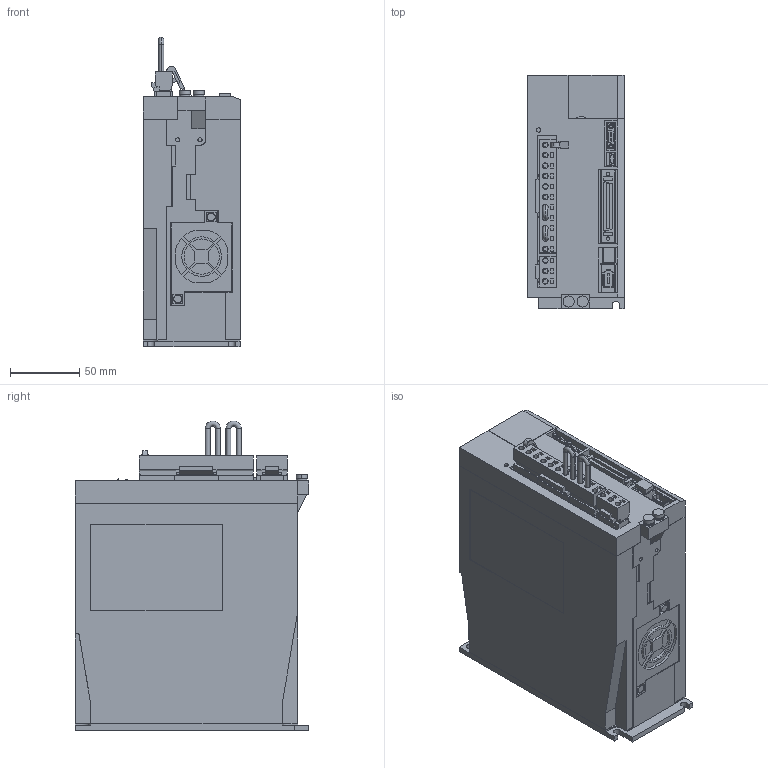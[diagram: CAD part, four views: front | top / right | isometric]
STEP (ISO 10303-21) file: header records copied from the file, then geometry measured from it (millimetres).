
FILE_DESCRIPTION (( 'STEP AP203' ), '1' );
FILE_NAME ('sgd7s_3r8a00a.STEP', '2016-08-02T00:32:57', ( '匠エンジニアリング山之内' ), ( 'TAKUMI-Engniaring' ), 'SwSTEP 2.0', 'SolidWorks 2006303', '' );
FILE_SCHEMA (( 'CONFIG_CONTROL_DESIGN' ));
Products named in the file (10): sgd7s_3r8a00a_cover; sgd7s_3r8a00a_cover2; sgd7s_3r8a00a; sgd7s_3r8a00a_base; sgd7s_3r8a00a_connector; sgd7s_3r8a00a_connector_2; sgd7s_3r8a00a_pin; sgd7s_3r8a00a_cable; sgd7s_3r8a00a_connector_1; sgd7s_3r8a00a_connector_3
Assembly tree (11 placements, depth 3):
  sgd7s_3r8a00a
    sgd7s_3r8a00a_base
    sgd7s_3r8a00a_cover2  x2
    sgd7s_3r8a00a_connector_1
    sgd7s_3r8a00a_connector
      sgd7s_3r8a00a_cable  x2
      sgd7s_3r8a00a_connector_2
      sgd7s_3r8a00a_pin
    sgd7s_3r8a00a_cover
    sgd7s_3r8a00a_connector_3
Bounding box: 70.5 x 168 x 223 mm (x, y, z)
Volume: 1988573 mm3; surface area: 151565.1 mm2
Topology: 10 solids, 10 shells, 1739 faces, 4467 edges, 2946 vertices
Faces by surface type: plane 1462, cylinder 268, cone 4, torus 4, sphere 1
Entity records: 52238 total; most frequent: CARTESIAN_POINT 9000, ORIENTED_EDGE 8774, DIRECTION 8360, EDGE_CURVE 4387, VECTOR 3852, LINE 3852, VERTEX_POINT 2894, AXIS2_PLACEMENT_3D 2254
